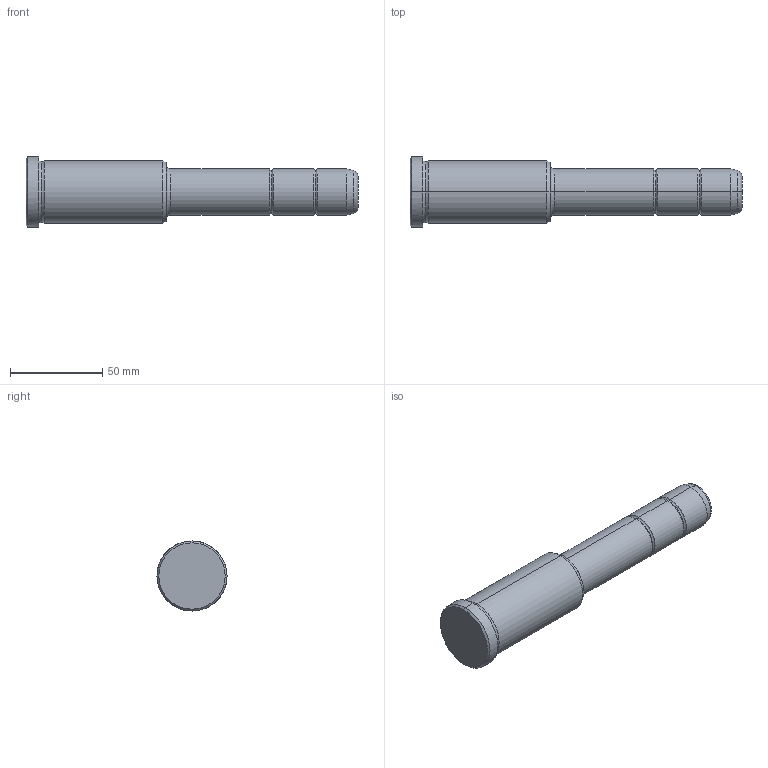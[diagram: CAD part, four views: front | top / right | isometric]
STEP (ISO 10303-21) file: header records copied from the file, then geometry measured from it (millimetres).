
FILE_DESCRIPTION(('CATIA V5 STEP Exchange'),'2;1');
FILE_NAME('C:\Users\Utente\Desktop\IO LAVORO\3D X SITO CF\X SITO\PLASTICA\351\351-25X76X180.stp','2021-09-07T11:33:22+00:00',('none'),('none'),'CATIA Version 5 Release 20 GA (IN-10)','CATIA V5 STEP AP203','none');
FILE_SCHEMA(('CONFIG_CONTROL_DESIGN'));
Length unit declared in the file: millimetre
Products named in the file (1): 351-25X76X180
Bounding box: 180 x 38 x 38 mm (x, y, z)
Volume: 120847.1 mm3; surface area: 18332.2 mm2
Topology: 1 solids, 1 shells, 36 faces, 102 edges, 70 vertices
Faces by surface type: torus 16, cylinder 10, cone 6, plane 4
Entity records: 1292 total; most frequent: CARTESIAN_POINT 321, ORIENTED_EDGE 204, DIRECTION 166, AXIS2_PLACEMENT_3D 115, EDGE_CURVE 102, CIRCLE 78, VERTEX_POINT 70, EDGE_LOOP 38
